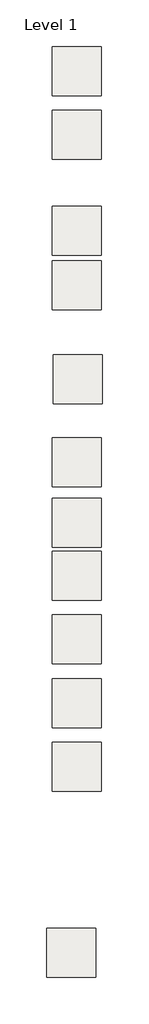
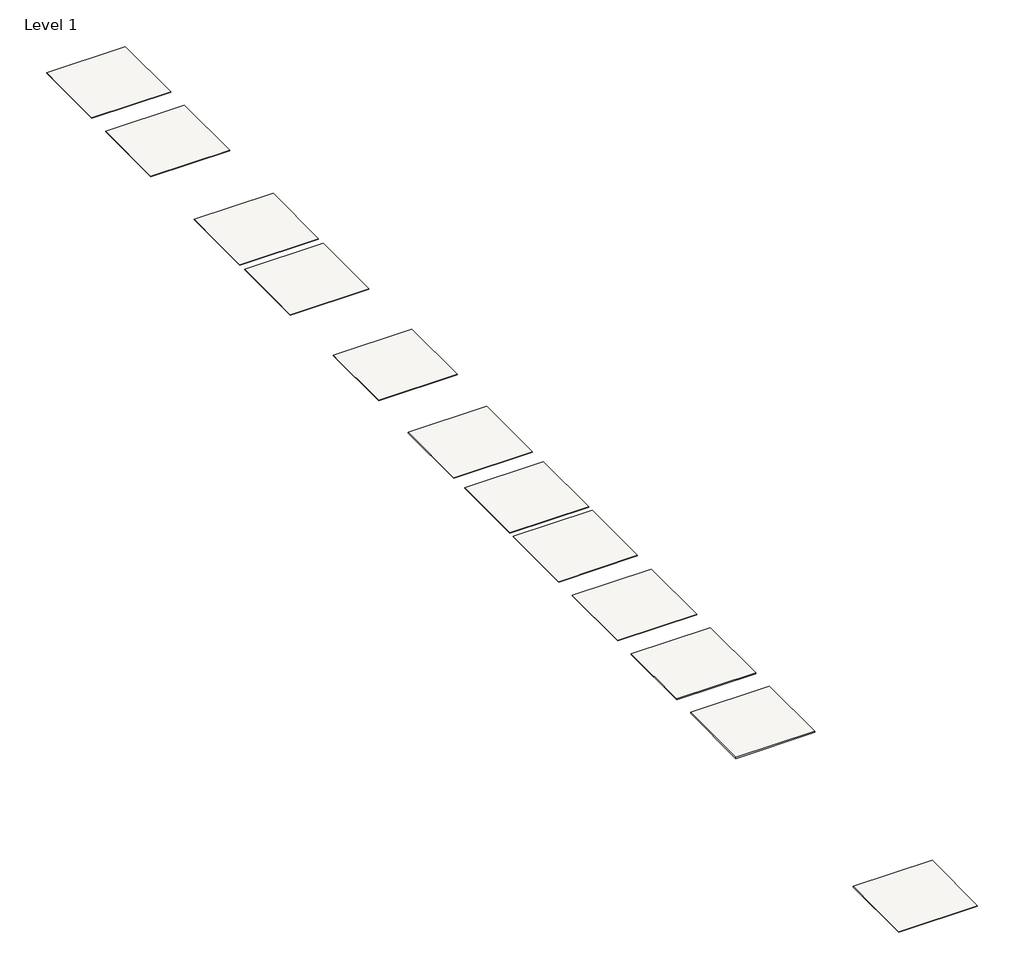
# One storey: 12 slabs.
"""IFC4 building model written with IfcOpenShell, lengths in millimetres."""

from ifc_helpers import new_model, si_unit, frame, origin, place, context, project, spatial, polyline, outline, extrude, element, save

model = new_model("IFC4")

# Units and contexts
model_context = context("Model", 3, world=origin())
ifc_project = project(units=[si_unit("LENGTHUNIT", "METRE", prefix="MILLI")], contexts=[model_context])

# Site, building, storey
site = spatial("IfcSite", under=ifc_project)
building = spatial("IfcBuilding", under=site)
storey = spatial("IfcBuildingStorey", under=building, Name="Level 1", Elevation=0.0)

# Slabs
placement = place(None, origin())
element("IfcSlab", 1, ObjectType="Exterior Decking - Wood - Thermory - Ash Decking 26x160 D4 - Smooth", at=placement, inside=storey, context=model_context, shape_type="SweptSolid", body=[
    extrude(outline(polyline([(-8262.4579871, -20723.698315), (-11310.4579871, -20723.698315), (-11310.4579871, -17675.698315), (-8262.4579871, -17675.698315), (-8262.4579871, -20723.698315)])), frame((0.0, 0.0, -26.0), z_axis=(0.0, 0.0, 1.0), x_axis=(1.0, 0.0, 0.0)), (0.0, 0.0, 1.0), 26.0),
])
element("IfcSlab", 2, ObjectType="Exterior Decking - Wood - Thermory - Ash Decking 42x90 D4 - Smooth", at=placement, inside=storey, context=model_context, shape_type="SweptSolid", body=[
    extrude(outline(polyline([(-7902.6916977, -9169.0314635), (-10950.6916977, -9169.0314635), (-10950.6916977, -6121.0314635), (-7902.6916977, -6121.0314635), (-7902.6916977, -9169.0314635)])), frame((0.0, 0.0, -42.0), z_axis=(0.0, 0.0, 1.0), x_axis=(1.0, 0.0, 0.0)), (0.0, 0.0, 1.0), 42.0),
])
element("IfcSlab", 3, ObjectType="Exterior Decking - Wood - Thermory - Ash Decking 42x140 D4 - Smooth", at=placement, inside=storey, context=model_context, shape_type="SweptSolid", body=[
    extrude(outline(polyline([(-7902.6916977, -5206.6314635), (-10950.6916977, -5206.6314635), (-10950.6916977, -2158.6314635), (-7902.6916977, -2158.6314635), (-7902.6916977, -5206.6314635)])), frame((0.0, 0.0, -42.0), z_axis=(0.0, 0.0, 1.0), x_axis=(1.0, 0.0, 0.0)), (0.0, 0.0, 1.0), 42.0),
])
element("IfcSlab", 4, ObjectType="Exterior Decking - Wood - Thermory - Ash Decking 20x112 D31 - Smooth", at=placement, inside=storey, context=model_context, shape_type="SweptSolid", body=[
    extrude(outline(polyline([(-7902.6916977, -1244.2314635), (-10950.6916977, -1244.2314635), (-10950.6916977, 1803.7685365), (-7902.6916977, 1803.7685365), (-7902.6916977, -1244.2314635)])), frame((0.0, 0.0, -20.0), z_axis=(0.0, 0.0, 1.0), x_axis=(1.0, 0.0, 0.0)), (0.0, 0.0, 1.0), 20.0),
])
element("IfcSlab", 5, ObjectType="Exterior Decking - Wood - Thermory - Ash Decking 20x132 D31 - Smooth", at=placement, inside=storey, context=model_context, shape_type="SweptSolid", body=[
    extrude(outline(polyline([(-7902.6916977, 2718.1685365), (-10950.6916977, 2718.1685365), (-10950.6916977, 5766.1685365), (-7902.6916977, 5766.1685365), (-7902.6916977, 2718.1685365)])), frame((0.0, 0.0, -20.0), z_axis=(0.0, 0.0, 1.0), x_axis=(1.0, 0.0, 0.0)), (0.0, 0.0, 1.0), 20.0),
])
element("IfcSlab", 6, ObjectType="Exterior Decking - Wood - Thermory - Ash Decking 21x118 D45J - Smooth", at=placement, inside=storey, context=model_context, shape_type="SweptSolid", body=[
    extrude(outline(polyline([(-7902.6916977, 6000.5685365), (-10950.6916977, 6000.5685365), (-10950.6916977, 9048.5685365), (-7902.6916977, 9048.5685365), (-7902.6916977, 6000.5685365)])), frame((0.0, 0.0, -21.0), z_axis=(0.0, 0.0, 1.0), x_axis=(1.0, 0.0, 0.0)), (0.0, 0.0, 1.0), 21.0),
])
element("IfcSlab", 7, ObjectType="Exterior Decking - Wood - Thermory - Ash Decking 26x145 D4sg2 - Smooth", at=placement, inside=storey, context=model_context, shape_type="SweptSolid", body=[
    extrude(outline(polyline([(-7916.667178, 9749.8386117), (-10964.667178, 9749.8386117), (-10964.667178, 12797.8386117), (-7916.667178, 12797.8386117), (-7916.667178, 9749.8386117)])), frame((0.0, 0.0, -26.0), z_axis=(0.0, 0.0, 1.0), x_axis=(1.0, 0.0, 0.0)), (0.0, 0.0, 1.0), 26.0),
])
element("IfcSlab", 8, ObjectType="Exterior Decking - Wood - Thermory - Ash Decking 20x112 D4sg2 - Smooth", at=placement, inside=storey, context=model_context, shape_type="SweptSolid", body=[
    extrude(outline(polyline([(-7902.6916977, 20751.7685365), (-10950.6916977, 20751.7685365), (-10950.6916977, 23799.7685365), (-7902.6916977, 23799.7685365), (-7902.6916977, 20751.7685365)])), frame((0.0, 0.0, -20.0), z_axis=(0.0, 0.0, 1.0), x_axis=(1.0, 0.0, 0.0)), (0.0, 0.0, 1.0), 20.0),
])
element("IfcSlab", 9, ObjectType="Exterior Decking - Wood - Thermory - Ash Decking 20x132 D4sg2 - Smooth", at=placement, inside=storey, context=model_context, shape_type="SweptSolid", body=[
    extrude(outline(polyline([(-7902.6916977, 24130.1685365), (-10950.6916977, 24130.1685365), (-10950.6916977, 27178.1685365), (-7902.6916977, 27178.1685365), (-7902.6916977, 24130.1685365)])), frame((0.0, 0.0, -20.0), z_axis=(0.0, 0.0, 1.0), x_axis=(1.0, 0.0, 0.0)), (0.0, 0.0, 1.0), 20.0),
])
element("IfcSlab", 10, ObjectType="Exterior Decking - Wood - Thermory - Ash Decking 20x150 D4sg2 - Smooth", at=placement, inside=storey, context=model_context, shape_type="SweptSolid", body=[
    extrude(outline(polyline([(-7902.6916977, 30092.5685365), (-10950.6916977, 30092.5685365), (-10950.6916977, 33140.5685365), (-7902.6916977, 33140.5685365), (-7902.6916977, 30092.5685365)])), frame((0.0, 0.0, -20.0), z_axis=(0.0, 0.0, 1.0), x_axis=(1.0, 0.0, 0.0)), (0.0, 0.0, 1.0), 20.0),
])
element("IfcSlab", 11, ObjectType="Exterior Decking - Wood - Thermory - Ash Decking 26x115 D4sg2 - Smooth", at=placement, inside=storey, context=model_context, shape_type="SweptSolid", body=[
    extrude(outline(polyline([(-7902.6916977, 34054.9685365), (-10950.6916977, 34054.9685365), (-10950.6916977, 37102.9685365), (-7902.6916977, 37102.9685365), (-7902.6916977, 34054.9685365)])), frame((0.0, 0.0, -26.0), z_axis=(0.0, 0.0, 1.0), x_axis=(1.0, 0.0, 0.0)), (0.0, 0.0, 1.0), 26.0),
])
element("IfcSlab", 12, ObjectType="Exterior Decking - Wood - Thermory - Ash Decking 20x95 D4sg2 - Smooth", at=placement, inside=storey, context=model_context, shape_type="SweptSolid", body=[
    extrude(outline(polyline([(-7839.8372489, 14915.3772915), (-10887.8372489, 14915.3772915), (-10887.8372489, 17963.3772915), (-7839.8372489, 17963.3772915), (-7839.8372489, 14915.3772915)])), frame((0.0, 0.0, -20.0), z_axis=(0.0, 0.0, 1.0), x_axis=(1.0, 0.0, 0.0)), (0.0, 0.0, 1.0), 20.0),
])

save(model, "model.ifc")
